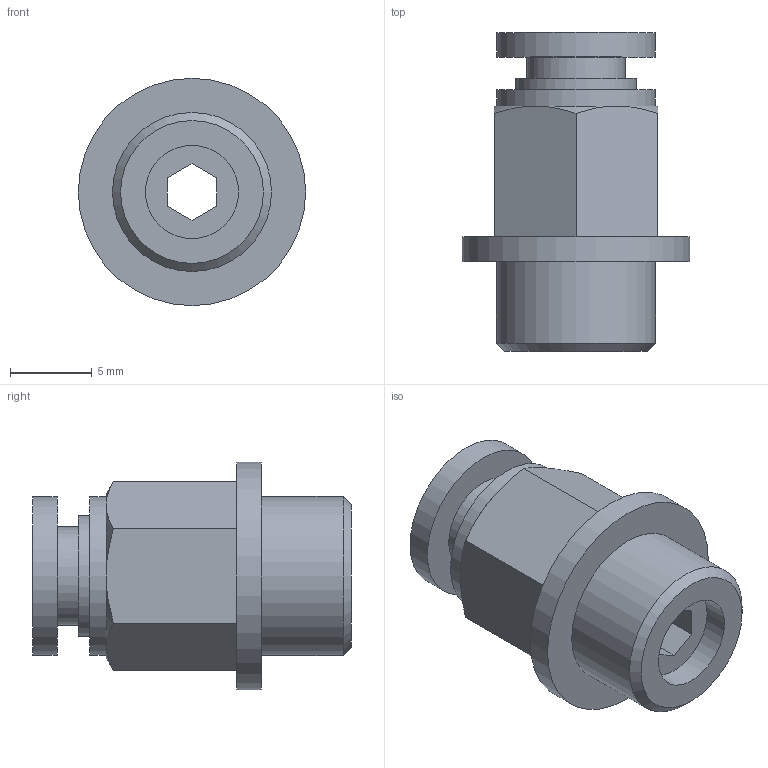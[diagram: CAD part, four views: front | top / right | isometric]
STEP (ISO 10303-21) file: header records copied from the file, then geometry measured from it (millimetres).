
FILE_DESCRIPTION((''),'2;1');
FILE_NAME('S:\UTecnico\ArchivioUT\Speciali Clienti\Speciali KONFIT\DISEGNI 3D\RP\RP 51\RP511804.stp','2012-05-23T16:59:34',('UT5'),(''),'Autodesk Inventor 2012','Autodesk Inventor 2012','');
FILE_SCHEMA(('AUTOMOTIVE_DESIGN { 1 0 10303 214 1 1 1 1 }'));
Length unit declared in the file: millimetre
Products named in the file (1): RP511804
Bounding box: 13.9 x 19.5 x 13.9 mm (x, y, z)
Volume: 1361.9 mm3; surface area: 1223.8 mm2
Topology: 1 solids, 1 shells, 37 faces, 75 edges, 48 vertices
Faces by surface type: plane 22, cylinder 8, cone 7
Full cylindrical faces by diameter (mm): 4 x1, 5.7 x1, 6 x1, 7.4 x1, 9.7 x2, 9.73 x1, 13.9 x1
Entity records: 941 total; most frequent: CARTESIAN_POINT 174, DIRECTION 152, ORIENTED_EDGE 130, EDGE_CURVE 65, AXIS2_PLACEMENT_3D 61, EDGE_LOOP 56, VERTEX_POINT 47, FACE_OUTER_BOUND 37
